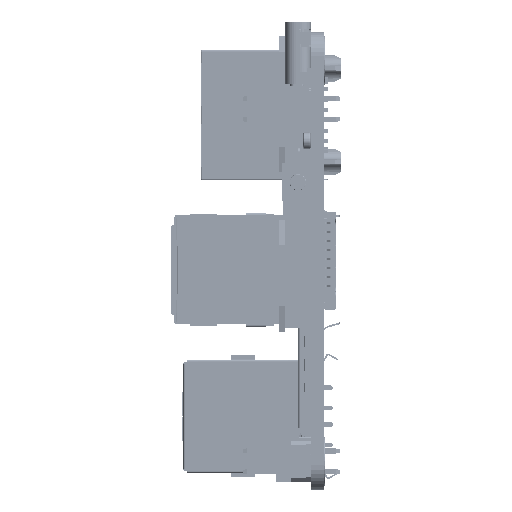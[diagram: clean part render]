
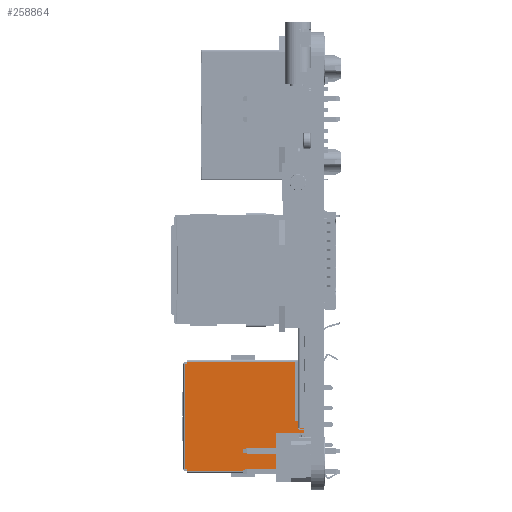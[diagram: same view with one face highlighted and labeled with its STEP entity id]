
A CAD part, left-side view. The second image highlights one B-rep face of the part: STEP entity #258864.
In plain terms, the highlighted planar face has unit normal (-1, 0, 0) as drawn and (0, 0, -1) by its records, which use the part's own axes.
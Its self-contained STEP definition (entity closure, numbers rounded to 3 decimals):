
#467 = PLANE ( 'NONE',  #7911 ) ;
#4367 = ORIENTED_EDGE ( 'NONE', *, *, #303568, .T. ) ;
#7911 = AXIS2_PLACEMENT_3D ( 'NONE', #179007, #361488, #33400 ) ;
#9426 = VECTOR ( 'NONE', #161349, 1000. ) ;
#23075 = CARTESIAN_POINT ( 'NONE',  ( 0., -6.7, 0. ) ) ;
#24365 = EDGE_CURVE ( 'NONE', #145454, #107476, #136838, .T. ) ;
#25580 = CARTESIAN_POINT ( 'NONE',  ( 7.6, 6.45, 0. ) ) ;
#30683 = VERTEX_POINT ( 'NONE', #52876 ) ;
#30951 = LINE ( 'NONE', #355270, #44717 ) ;
#31997 = LINE ( 'NONE', #274081, #9426 ) ;
#33400 = DIRECTION ( 'NONE',  ( -1., 0., 0. ) ) ;
#44717 = VECTOR ( 'NONE', #230984, 1000. ) ;
#51914 = VECTOR ( 'NONE', #117684, 1000. ) ;
#52876 = CARTESIAN_POINT ( 'NONE',  ( -7.6, -6.7, 0. ) ) ;
#63168 = ORIENTED_EDGE ( 'NONE', *, *, #303833, .T. ) ;
#63968 = CARTESIAN_POINT ( 'NONE',  ( 7.117, -6.45, 0. ) ) ;
#67771 = DIRECTION ( 'NONE',  ( 1., 0., 0. ) ) ;
#76685 = DIRECTION ( 'NONE',  ( 0., -1., 0. ) ) ;
#95210 = VECTOR ( 'NONE', #236524, 1000. ) ;
#95375 = EDGE_CURVE ( 'NONE', #223716, #145454, #30951, .T. ) ;
#105385 = ORIENTED_EDGE ( 'NONE', *, *, #343228, .F. ) ;
#107476 = VERTEX_POINT ( 'NONE', #145217 ) ;
#108521 = VERTEX_POINT ( 'NONE', #250192 ) ;
#117684 = DIRECTION ( 'NONE',  ( 0., 1., 0. ) ) ;
#118134 = LINE ( 'NONE', #23075, #95210 ) ;
#121923 = ORIENTED_EDGE ( 'NONE', *, *, #256994, .F. ) ;
#128114 = ORIENTED_EDGE ( 'NONE', *, *, #24365, .T. ) ;
#136838 = LINE ( 'NONE', #140640, #322336 ) ;
#140640 = CARTESIAN_POINT ( 'NONE',  ( 7.6, -6.65, 0. ) ) ;
#145217 = CARTESIAN_POINT ( 'NONE',  ( 7.6, -6.45, 0. ) ) ;
#145454 = VERTEX_POINT ( 'NONE', #25580 ) ;
#147689 = DIRECTION ( 'NONE',  ( 0., 1., 0. ) ) ;
#158385 = VERTEX_POINT ( 'NONE', #336880 ) ;
#161349 = DIRECTION ( 'NONE',  ( 1., 0., 0. ) ) ;
#162092 = DIRECTION ( 'NONE',  ( 0., -1., 0. ) ) ;
#174491 = CARTESIAN_POINT ( 'NONE',  ( 7.4, 6.7, 0. ) ) ;
#179007 = CARTESIAN_POINT ( 'NONE',  ( 0., 0., 0. ) ) ;
#180202 = CARTESIAN_POINT ( 'NONE',  ( 7.4, -6.45, 0. ) ) ;
#188233 = VECTOR ( 'NONE', #162092, 1000. ) ;
#203122 = CARTESIAN_POINT ( 'NONE',  ( -7.6, 6.9, 0. ) ) ;
#206381 = VECTOR ( 'NONE', #67771, 1000. ) ;
#207759 = VERTEX_POINT ( 'NONE', #174491 ) ;
#216660 = EDGE_LOOP ( 'NONE', ( #343112, #374751, #128114, #121923, #105385, #4367, #63168, #288002 ) ) ;
#221064 = CARTESIAN_POINT ( 'NONE',  ( 7.4, 6.45, 0. ) ) ;
#221592 = VECTOR ( 'NONE', #147689, 1000. ) ;
#223335 = EDGE_CURVE ( 'NONE', #108521, #207759, #31997, .T. ) ;
#223716 = VERTEX_POINT ( 'NONE', #221064 ) ;
#229307 = CARTESIAN_POINT ( 'NONE',  ( 7.4, -6.9, 0. ) ) ;
#230984 = DIRECTION ( 'NONE',  ( 1., 0., 0. ) ) ;
#232236 = LINE ( 'NONE', #203122, #51914 ) ;
#236524 = DIRECTION ( 'NONE',  ( -1., 0., 0. ) ) ;
#236981 = LINE ( 'NONE', #229307, #221592 ) ;
#242990 = FACE_OUTER_BOUND ( 'NONE', #216660, .T. ) ;
#243022 = VERTEX_POINT ( 'NONE', #180202 ) ;
#250192 = CARTESIAN_POINT ( 'NONE',  ( -7.6, 6.7, 0. ) ) ;
#256994 = EDGE_CURVE ( 'NONE', #243022, #107476, #300773, .T. ) ;
#258864 = ADVANCED_FACE ( 'Face3', ( #242990 ), #467, .T. ) ;
#274081 = CARTESIAN_POINT ( 'NONE',  ( 0., 6.7, 0. ) ) ;
#280546 = CARTESIAN_POINT ( 'NONE',  ( 7.4, 6.9, 0. ) ) ;
#288002 = ORIENTED_EDGE ( 'NONE', *, *, #223335, .T. ) ;
#300773 = LINE ( 'NONE', #63968, #206381 ) ;
#303568 = EDGE_CURVE ( 'NONE', #158385, #30683, #118134, .T. ) ;
#303833 = EDGE_CURVE ( 'NONE', #30683, #108521, #232236, .T. ) ;
#313473 = LINE ( 'NONE', #280546, #188233 ) ;
#322336 = VECTOR ( 'NONE', #76685, 1000. ) ;
#330009 = EDGE_CURVE ( 'NONE', #207759, #223716, #313473, .T. ) ;
#336880 = CARTESIAN_POINT ( 'NONE',  ( 7.4, -6.7, 0. ) ) ;
#343112 = ORIENTED_EDGE ( 'NONE', *, *, #330009, .T. ) ;
#343228 = EDGE_CURVE ( 'NONE', #158385, #243022, #236981, .T. ) ;
#355270 = CARTESIAN_POINT ( 'NONE',  ( 7.117, 6.45, 0. ) ) ;
#361488 = DIRECTION ( 'NONE',  ( 0., 0., -1. ) ) ;
#374751 = ORIENTED_EDGE ( 'NONE', *, *, #95375, .T. ) ;
